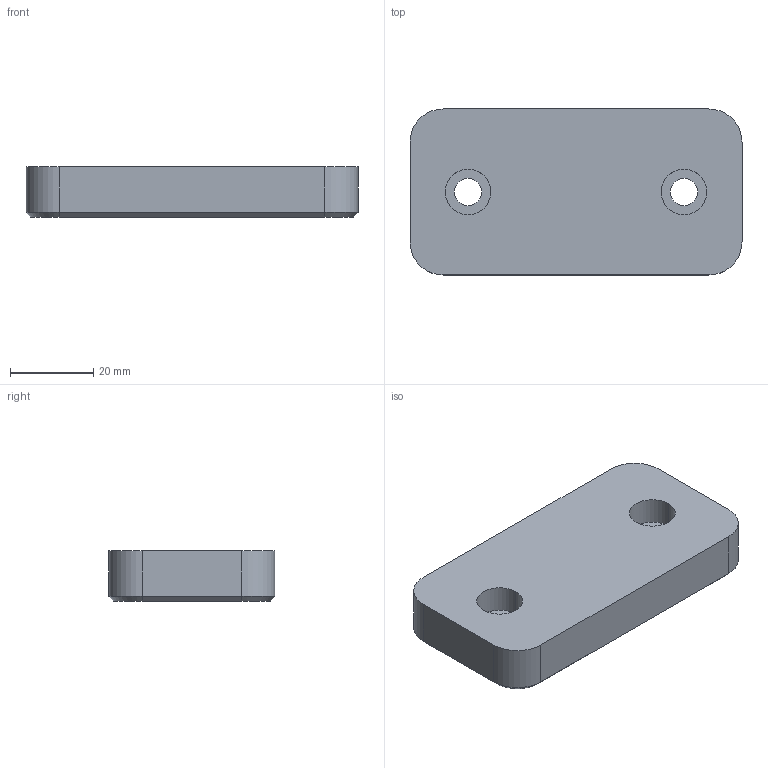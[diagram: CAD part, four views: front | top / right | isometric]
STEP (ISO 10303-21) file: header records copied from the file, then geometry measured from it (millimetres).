
FILE_DESCRIPTION (( 'STEP AP214' ), '1' );
FILE_NAME ('F2680_04008012.STEP', '2024-09-10T07:33:22', ( '' ), ( '' ), 'SwSTEP 2.0', 'SolidWorks 2014', '' );
FILE_SCHEMA (( 'AUTOMOTIVE_DESIGN' ));
Length unit declared in the file: millimetre
Products named in the file (1): F2680_04008012
Bounding box: 80 x 40 x 12.1 mm (x, y, z)
Volume: 36263.4 mm3; surface area: 9414.4 mm2
Topology: 1 solids, 1 shells, 28 faces, 64 edges, 40 vertices
Faces by surface type: cylinder 12, plane 12, cone 4
Entity records: 834 total; most frequent: DIRECTION 150, CARTESIAN_POINT 133, ORIENTED_EDGE 128, EDGE_CURVE 64, AXIS2_PLACEMENT_3D 57, VERTEX_POINT 40, LINE 36, VECTOR 36
